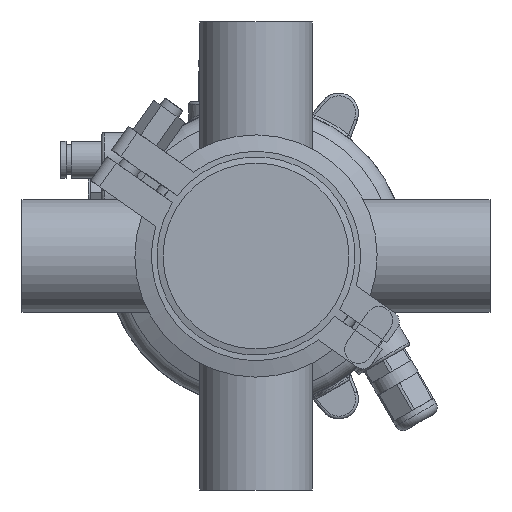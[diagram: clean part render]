
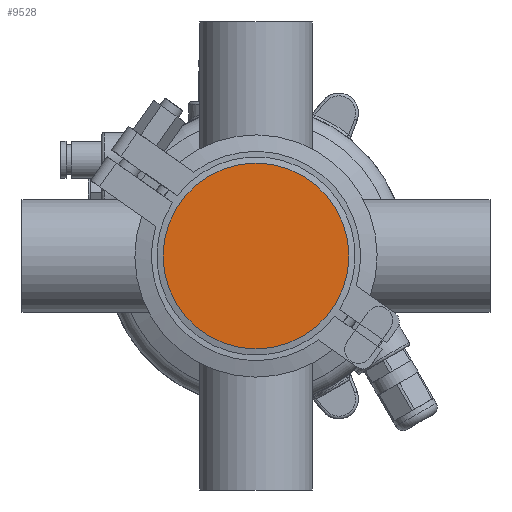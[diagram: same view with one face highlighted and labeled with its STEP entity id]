
A CAD part, front view. The second image highlights one B-rep face of the part: STEP entity #9528.
In plain terms, the highlighted planar face has unit normal (0, -1, 0).
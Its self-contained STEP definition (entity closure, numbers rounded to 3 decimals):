
#3908 = VERTEX_POINT ( 'NONE', #32031 ) ;
#9528 = ADVANCED_FACE ( 'NONE', ( #26391 ), #35160, .T. ) ;
#12098 = DIRECTION ( 'NONE',  ( 0., 1., 0. ) ) ;
#25500 = DIRECTION ( 'NONE',  ( 0., 0., -1. ) ) ;
#26391 = FACE_OUTER_BOUND ( 'NONE', #36106, .T. ) ;
#31160 = DIRECTION ( 'NONE',  ( 0., 0., 1. ) ) ;
#32031 = CARTESIAN_POINT ( 'NONE',  ( 0., 0., 33.75 ) ) ;
#35160 = PLANE ( 'NONE',  #53553 ) ;
#36106 = EDGE_LOOP ( 'NONE', ( #50801 ) ) ;
#44169 = AXIS2_PLACEMENT_3D ( 'NONE', #49948, #12098, #31160 ) ;
#44840 = DIRECTION ( 'NONE',  ( 0., -1., 0. ) ) ;
#49948 = CARTESIAN_POINT ( 'NONE',  ( 0., 0., 0. ) ) ;
#50801 = ORIENTED_EDGE ( 'NONE', *, *, #54672, .F. ) ;
#53553 = AXIS2_PLACEMENT_3D ( 'NONE', #53665, #44840, #25500 ) ;
#53665 = CARTESIAN_POINT ( 'NONE',  ( -33.75, 0., 0. ) ) ;
#54672 = EDGE_CURVE ( 'NONE', #3908, #3908, #58696, .T. ) ;
#58696 = CIRCLE ( 'NONE', #44169, 33.75 ) ;
